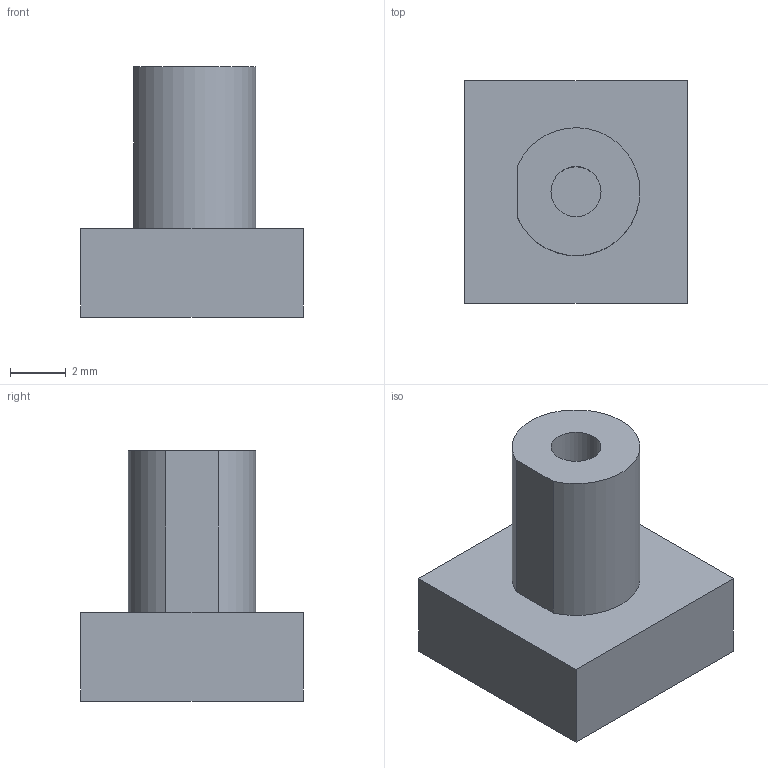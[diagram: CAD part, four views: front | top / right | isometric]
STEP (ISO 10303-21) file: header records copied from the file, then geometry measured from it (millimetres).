
FILE_DESCRIPTION(('Open CASCADE Model'),'2;1');
FILE_NAME('Open CASCADE Shape Model','2026-09-15T13:37:42',('Author'),( 'Open CASCADE'),'Open CASCADE STEP processor 7.7','Open CASCADE 7.7' ,'Unknown');
FILE_SCHEMA(('AUTOMOTIVE_DESIGN { 1 0 10303 214 1 1 1 1 }'));
Length unit declared in the file: millimetre
Products named in the file (1): Open CASCADE STEP translator 7.7 5
Bounding box: 8 x 8 x 9 mm (x, y, z)
Volume: 288 mm3; surface area: 339.9 mm2
Topology: 1 solids, 1 shells, 11 faces, 21 edges, 14 vertices
Faces by surface type: plane 9, cylinder 2
Full cylindrical faces by diameter (mm): 1.8 x1
Entity records: 560 total; most frequent: CARTESIAN_POINT 109, DIRECTION 81, LINE 47, VECTOR 47, ORIENTED_EDGE 42, PCURVE 42, DEFINITIONAL_REPRESENTATION 42, EDGE_CURVE 21
